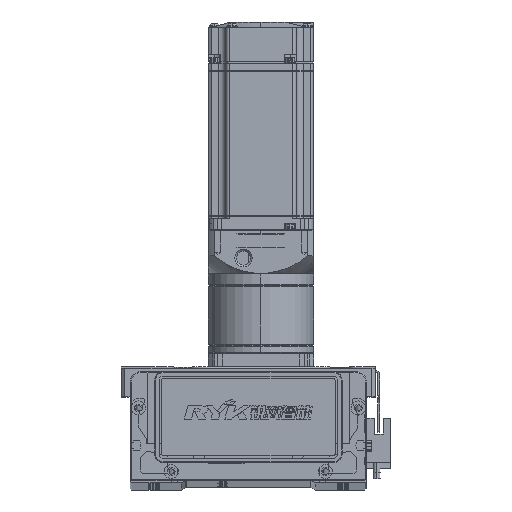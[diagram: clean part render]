
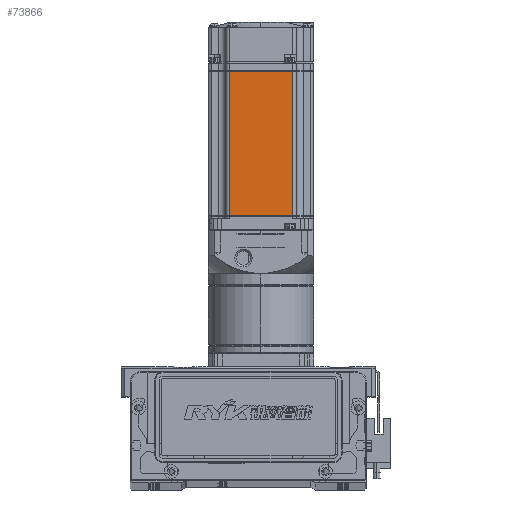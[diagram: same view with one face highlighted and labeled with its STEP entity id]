
A CAD part, top view. The second image highlights one B-rep face of the part: STEP entity #73866.
In plain terms, the highlighted planar face has unit normal (0, 0, 1).
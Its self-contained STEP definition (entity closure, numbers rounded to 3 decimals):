
#2280 = VECTOR ( 'NONE', #37697, 1000. ) ;
#5936 = DIRECTION ( 'NONE',  ( -1., 0., 0. ) ) ;
#8901 = VECTOR ( 'NONE', #44419, 1000. ) ;
#12887 = VERTEX_POINT ( 'NONE', #67213 ) ;
#13348 = CARTESIAN_POINT ( 'NONE',  ( -6.5, 18., 30. ) ) ;
#19086 = ORIENTED_EDGE ( 'NONE', *, *, #56997, .T. ) ;
#21739 = EDGE_CURVE ( 'NONE', #12887, #72117, #68625, .T. ) ;
#22719 = VECTOR ( 'NONE', #5936, 1000. ) ;
#28516 = EDGE_LOOP ( 'NONE', ( #80367, #19086, #84051, #68659 ) ) ;
#30650 = CARTESIAN_POINT ( 'NONE',  ( -90.45, -18., 30. ) ) ;
#30920 = CARTESIAN_POINT ( 'NONE',  ( -6.5, -18., 30. ) ) ;
#31227 = DIRECTION ( 'NONE',  ( -1., 0., 0. ) ) ;
#32801 = EDGE_CURVE ( 'NONE', #37813, #12887, #46686, .T. ) ;
#35626 = LINE ( 'NONE', #80166, #2280 ) ;
#37697 = DIRECTION ( 'NONE',  ( 0., -1., 0. ) ) ;
#37813 = VERTEX_POINT ( 'NONE', #81937 ) ;
#41625 = LINE ( 'NONE', #13348, #22719 ) ;
#44419 = DIRECTION ( 'NONE',  ( 0., -1., 0. ) ) ;
#46686 = LINE ( 'NONE', #65504, #8901 ) ;
#49123 = DIRECTION ( 'NONE',  ( 1., 0., 0. ) ) ;
#49736 = VECTOR ( 'NONE', #31227, 1000. ) ;
#50044 = DIRECTION ( 'NONE',  ( 0., 0., 1. ) ) ;
#51902 = EDGE_CURVE ( 'NONE', #71547, #72117, #35626, .T. ) ;
#56997 = EDGE_CURVE ( 'NONE', #37813, #71547, #41625, .T. ) ;
#57140 = PLANE ( 'NONE',  #79756 ) ;
#63275 = FACE_OUTER_BOUND ( 'NONE', #28516, .T. ) ;
#65504 = CARTESIAN_POINT ( 'NONE',  ( -7.75, 0., 30. ) ) ;
#67213 = CARTESIAN_POINT ( 'NONE',  ( -7.75, -18., 30. ) ) ;
#68625 = LINE ( 'NONE', #30920, #49736 ) ;
#68659 = ORIENTED_EDGE ( 'NONE', *, *, #21739, .F. ) ;
#71547 = VERTEX_POINT ( 'NONE', #88349 ) ;
#72117 = VERTEX_POINT ( 'NONE', #30650 ) ;
#73866 = ADVANCED_FACE ( 'NONE', ( #63275 ), #57140, .T. ) ;
#79756 = AXIS2_PLACEMENT_3D ( 'NONE', #91373, #50044, #49123 ) ;
#80166 = CARTESIAN_POINT ( 'NONE',  ( -90.45, 0., 30. ) ) ;
#80367 = ORIENTED_EDGE ( 'NONE', *, *, #32801, .F. ) ;
#81937 = CARTESIAN_POINT ( 'NONE',  ( -7.75, 18., 30. ) ) ;
#84051 = ORIENTED_EDGE ( 'NONE', *, *, #51902, .T. ) ;
#88349 = CARTESIAN_POINT ( 'NONE',  ( -90.45, 18., 30. ) ) ;
#91373 = CARTESIAN_POINT ( 'NONE',  ( -6.5, -25., 30. ) ) ;
